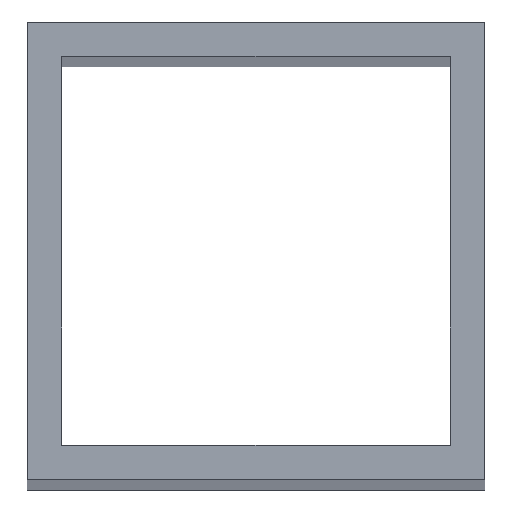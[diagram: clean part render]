
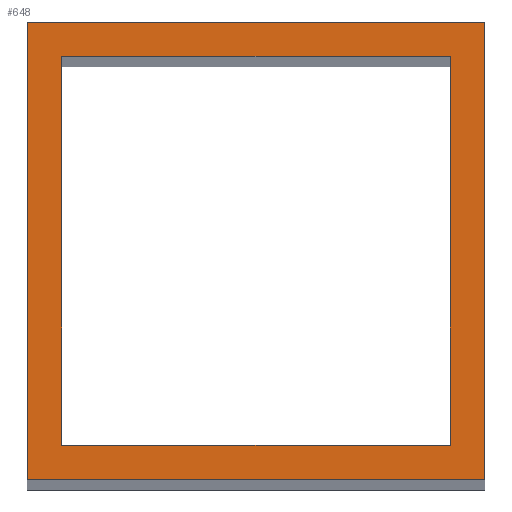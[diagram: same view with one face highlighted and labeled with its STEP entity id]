
A CAD part, top view. The second image highlights one B-rep face of the part: STEP entity #648.
In plain terms, the highlighted planar face has unit normal (0, 0, 1).
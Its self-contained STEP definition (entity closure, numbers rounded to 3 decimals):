
#24 = VERTEX_POINT('',#25);
#25 = CARTESIAN_POINT('',(-20.,-20.,520.));
#32 = PLANE('',#33);
#33 = AXIS2_PLACEMENT_3D('',#34,#35,#36);
#34 = CARTESIAN_POINT('',(-20.,-20.,0.));
#35 = DIRECTION('',(0.,1.,0.));
#36 = DIRECTION('',(1.,0.,0.));
#44 = PLANE('',#45);
#45 = AXIS2_PLACEMENT_3D('',#46,#47,#48);
#46 = CARTESIAN_POINT('',(-20.,20.,0.));
#47 = DIRECTION('',(1.,0.,-0.));
#48 = DIRECTION('',(0.,-1.,0.));
#56 = EDGE_CURVE('',#24,#57,#59,.T.);
#57 = VERTEX_POINT('',#58);
#58 = CARTESIAN_POINT('',(20.,-20.,520.));
#59 = SURFACE_CURVE('',#60,(#64,#71),.PCURVE_S1.);
#60 = LINE('',#61,#62);
#61 = CARTESIAN_POINT('',(-20.,-20.,520.));
#62 = VECTOR('',#63,1.);
#63 = DIRECTION('',(1.,0.,0.));
#64 = PCURVE('',#32,#65);
#65 = DEFINITIONAL_REPRESENTATION('',(#66),#70);
#66 = LINE('',#67,#68);
#67 = CARTESIAN_POINT('',(0.,-520.));
#68 = VECTOR('',#69,1.);
#69 = DIRECTION('',(1.,0.));
#70 = ( GEOMETRIC_REPRESENTATION_CONTEXT(2) 
PARAMETRIC_REPRESENTATION_CONTEXT() REPRESENTATION_CONTEXT('2D SPACE',''
  ) );
#71 = PCURVE('',#72,#77);
#72 = PLANE('',#73);
#73 = AXIS2_PLACEMENT_3D('',#74,#75,#76);
#74 = CARTESIAN_POINT('',(0.,0.,520.));
#75 = DIRECTION('',(0.,0.,1.));
#76 = DIRECTION('',(1.,0.,-0.));
#77 = DEFINITIONAL_REPRESENTATION('',(#78),#82);
#78 = LINE('',#79,#80);
#79 = CARTESIAN_POINT('',(-20.,-20.));
#80 = VECTOR('',#81,1.);
#81 = DIRECTION('',(1.,0.));
#82 = ( GEOMETRIC_REPRESENTATION_CONTEXT(2) 
PARAMETRIC_REPRESENTATION_CONTEXT() REPRESENTATION_CONTEXT('2D SPACE',''
  ) );
#100 = PLANE('',#101);
#101 = AXIS2_PLACEMENT_3D('',#102,#103,#104);
#102 = CARTESIAN_POINT('',(20.,-20.,0.));
#103 = DIRECTION('',(-1.,0.,0.));
#104 = DIRECTION('',(0.,1.,0.));
#142 = EDGE_CURVE('',#57,#143,#145,.T.);
#143 = VERTEX_POINT('',#144);
#144 = CARTESIAN_POINT('',(20.,20.,520.));
#145 = SURFACE_CURVE('',#146,(#150,#157),.PCURVE_S1.);
#146 = LINE('',#147,#148);
#147 = CARTESIAN_POINT('',(20.,-20.,520.));
#148 = VECTOR('',#149,1.);
#149 = DIRECTION('',(0.,1.,0.));
#150 = PCURVE('',#100,#151);
#151 = DEFINITIONAL_REPRESENTATION('',(#152),#156);
#152 = LINE('',#153,#154);
#153 = CARTESIAN_POINT('',(0.,-520.));
#154 = VECTOR('',#155,1.);
#155 = DIRECTION('',(1.,0.));
#156 = ( GEOMETRIC_REPRESENTATION_CONTEXT(2) 
PARAMETRIC_REPRESENTATION_CONTEXT() REPRESENTATION_CONTEXT('2D SPACE',''
  ) );
#157 = PCURVE('',#72,#158);
#158 = DEFINITIONAL_REPRESENTATION('',(#159),#163);
#159 = LINE('',#160,#161);
#160 = CARTESIAN_POINT('',(20.,-20.));
#161 = VECTOR('',#162,1.);
#162 = DIRECTION('',(0.,1.));
#163 = ( GEOMETRIC_REPRESENTATION_CONTEXT(2) 
PARAMETRIC_REPRESENTATION_CONTEXT() REPRESENTATION_CONTEXT('2D SPACE',''
  ) );
#181 = PLANE('',#182);
#182 = AXIS2_PLACEMENT_3D('',#183,#184,#185);
#183 = CARTESIAN_POINT('',(20.,20.,0.));
#184 = DIRECTION('',(0.,-1.,0.));
#185 = DIRECTION('',(-1.,0.,0.));
#218 = EDGE_CURVE('',#143,#219,#221,.T.);
#219 = VERTEX_POINT('',#220);
#220 = CARTESIAN_POINT('',(-20.,20.,520.));
#221 = SURFACE_CURVE('',#222,(#226,#233),.PCURVE_S1.);
#222 = LINE('',#223,#224);
#223 = CARTESIAN_POINT('',(20.,20.,520.));
#224 = VECTOR('',#225,1.);
#225 = DIRECTION('',(-1.,0.,0.));
#226 = PCURVE('',#181,#227);
#227 = DEFINITIONAL_REPRESENTATION('',(#228),#232);
#228 = LINE('',#229,#230);
#229 = CARTESIAN_POINT('',(0.,-520.));
#230 = VECTOR('',#231,1.);
#231 = DIRECTION('',(1.,0.));
#232 = ( GEOMETRIC_REPRESENTATION_CONTEXT(2) 
PARAMETRIC_REPRESENTATION_CONTEXT() REPRESENTATION_CONTEXT('2D SPACE',''
  ) );
#233 = PCURVE('',#72,#234);
#234 = DEFINITIONAL_REPRESENTATION('',(#235),#239);
#235 = LINE('',#236,#237);
#236 = CARTESIAN_POINT('',(20.,20.));
#237 = VECTOR('',#238,1.);
#238 = DIRECTION('',(-1.,0.));
#239 = ( GEOMETRIC_REPRESENTATION_CONTEXT(2) 
PARAMETRIC_REPRESENTATION_CONTEXT() REPRESENTATION_CONTEXT('2D SPACE',''
  ) );
#289 = EDGE_CURVE('',#219,#24,#290,.T.);
#290 = SURFACE_CURVE('',#291,(#295,#302),.PCURVE_S1.);
#291 = LINE('',#292,#293);
#292 = CARTESIAN_POINT('',(-20.,20.,520.));
#293 = VECTOR('',#294,1.);
#294 = DIRECTION('',(0.,-1.,0.));
#295 = PCURVE('',#44,#296);
#296 = DEFINITIONAL_REPRESENTATION('',(#297),#301);
#297 = LINE('',#298,#299);
#298 = CARTESIAN_POINT('',(0.,-520.));
#299 = VECTOR('',#300,1.);
#300 = DIRECTION('',(1.,0.));
#301 = ( GEOMETRIC_REPRESENTATION_CONTEXT(2) 
PARAMETRIC_REPRESENTATION_CONTEXT() REPRESENTATION_CONTEXT('2D SPACE',''
  ) );
#302 = PCURVE('',#72,#303);
#303 = DEFINITIONAL_REPRESENTATION('',(#304),#308);
#304 = LINE('',#305,#306);
#305 = CARTESIAN_POINT('',(-20.,20.));
#306 = VECTOR('',#307,1.);
#307 = DIRECTION('',(0.,-1.));
#308 = ( GEOMETRIC_REPRESENTATION_CONTEXT(2) 
PARAMETRIC_REPRESENTATION_CONTEXT() REPRESENTATION_CONTEXT('2D SPACE',''
  ) );
#338 = VERTEX_POINT('',#339);
#339 = CARTESIAN_POINT('',(-17.,-17.,520.));
#346 = PLANE('',#347);
#347 = AXIS2_PLACEMENT_3D('',#348,#349,#350);
#348 = CARTESIAN_POINT('',(-17.,-17.,0.));
#349 = DIRECTION('',(0.,1.,0.));
#350 = DIRECTION('',(1.,0.,0.));
#358 = PLANE('',#359);
#359 = AXIS2_PLACEMENT_3D('',#360,#361,#362);
#360 = CARTESIAN_POINT('',(-17.,17.,0.));
#361 = DIRECTION('',(1.,0.,-0.));
#362 = DIRECTION('',(0.,-1.,0.));
#370 = EDGE_CURVE('',#338,#371,#373,.T.);
#371 = VERTEX_POINT('',#372);
#372 = CARTESIAN_POINT('',(17.,-17.,520.));
#373 = SURFACE_CURVE('',#374,(#378,#385),.PCURVE_S1.);
#374 = LINE('',#375,#376);
#375 = CARTESIAN_POINT('',(-17.,-17.,520.));
#376 = VECTOR('',#377,1.);
#377 = DIRECTION('',(1.,0.,0.));
#378 = PCURVE('',#346,#379);
#379 = DEFINITIONAL_REPRESENTATION('',(#380),#384);
#380 = LINE('',#381,#382);
#381 = CARTESIAN_POINT('',(0.,-520.));
#382 = VECTOR('',#383,1.);
#383 = DIRECTION('',(1.,0.));
#384 = ( GEOMETRIC_REPRESENTATION_CONTEXT(2) 
PARAMETRIC_REPRESENTATION_CONTEXT() REPRESENTATION_CONTEXT('2D SPACE',''
  ) );
#385 = PCURVE('',#72,#386);
#386 = DEFINITIONAL_REPRESENTATION('',(#387),#391);
#387 = LINE('',#388,#389);
#388 = CARTESIAN_POINT('',(-17.,-17.));
#389 = VECTOR('',#390,1.);
#390 = DIRECTION('',(1.,0.));
#391 = ( GEOMETRIC_REPRESENTATION_CONTEXT(2) 
PARAMETRIC_REPRESENTATION_CONTEXT() REPRESENTATION_CONTEXT('2D SPACE',''
  ) );
#409 = PLANE('',#410);
#410 = AXIS2_PLACEMENT_3D('',#411,#412,#413);
#411 = CARTESIAN_POINT('',(17.,-17.,0.));
#412 = DIRECTION('',(-1.,0.,0.));
#413 = DIRECTION('',(0.,1.,0.));
#446 = EDGE_CURVE('',#371,#447,#449,.T.);
#447 = VERTEX_POINT('',#448);
#448 = CARTESIAN_POINT('',(17.,17.,520.));
#449 = SURFACE_CURVE('',#450,(#454,#461),.PCURVE_S1.);
#450 = LINE('',#451,#452);
#451 = CARTESIAN_POINT('',(17.,-17.,520.));
#452 = VECTOR('',#453,1.);
#453 = DIRECTION('',(0.,1.,0.));
#454 = PCURVE('',#409,#455);
#455 = DEFINITIONAL_REPRESENTATION('',(#456),#460);
#456 = LINE('',#457,#458);
#457 = CARTESIAN_POINT('',(0.,-520.));
#458 = VECTOR('',#459,1.);
#459 = DIRECTION('',(1.,0.));
#460 = ( GEOMETRIC_REPRESENTATION_CONTEXT(2) 
PARAMETRIC_REPRESENTATION_CONTEXT() REPRESENTATION_CONTEXT('2D SPACE',''
  ) );
#461 = PCURVE('',#72,#462);
#462 = DEFINITIONAL_REPRESENTATION('',(#463),#467);
#463 = LINE('',#464,#465);
#464 = CARTESIAN_POINT('',(17.,-17.));
#465 = VECTOR('',#466,1.);
#466 = DIRECTION('',(0.,1.));
#467 = ( GEOMETRIC_REPRESENTATION_CONTEXT(2) 
PARAMETRIC_REPRESENTATION_CONTEXT() REPRESENTATION_CONTEXT('2D SPACE',''
  ) );
#485 = PLANE('',#486);
#486 = AXIS2_PLACEMENT_3D('',#487,#488,#489);
#487 = CARTESIAN_POINT('',(17.,17.,0.));
#488 = DIRECTION('',(0.,-1.,0.));
#489 = DIRECTION('',(-1.,0.,0.));
#522 = EDGE_CURVE('',#447,#523,#525,.T.);
#523 = VERTEX_POINT('',#524);
#524 = CARTESIAN_POINT('',(-17.,17.,520.));
#525 = SURFACE_CURVE('',#526,(#530,#537),.PCURVE_S1.);
#526 = LINE('',#527,#528);
#527 = CARTESIAN_POINT('',(17.,17.,520.));
#528 = VECTOR('',#529,1.);
#529 = DIRECTION('',(-1.,0.,0.));
#530 = PCURVE('',#485,#531);
#531 = DEFINITIONAL_REPRESENTATION('',(#532),#536);
#532 = LINE('',#533,#534);
#533 = CARTESIAN_POINT('',(0.,-520.));
#534 = VECTOR('',#535,1.);
#535 = DIRECTION('',(1.,0.));
#536 = ( GEOMETRIC_REPRESENTATION_CONTEXT(2) 
PARAMETRIC_REPRESENTATION_CONTEXT() REPRESENTATION_CONTEXT('2D SPACE',''
  ) );
#537 = PCURVE('',#72,#538);
#538 = DEFINITIONAL_REPRESENTATION('',(#539),#543);
#539 = LINE('',#540,#541);
#540 = CARTESIAN_POINT('',(17.,17.));
#541 = VECTOR('',#542,1.);
#542 = DIRECTION('',(-1.,0.));
#543 = ( GEOMETRIC_REPRESENTATION_CONTEXT(2) 
PARAMETRIC_REPRESENTATION_CONTEXT() REPRESENTATION_CONTEXT('2D SPACE',''
  ) );
#593 = EDGE_CURVE('',#523,#338,#594,.T.);
#594 = SURFACE_CURVE('',#595,(#599,#606),.PCURVE_S1.);
#595 = LINE('',#596,#597);
#596 = CARTESIAN_POINT('',(-17.,17.,520.));
#597 = VECTOR('',#598,1.);
#598 = DIRECTION('',(0.,-1.,0.));
#599 = PCURVE('',#358,#600);
#600 = DEFINITIONAL_REPRESENTATION('',(#601),#605);
#601 = LINE('',#602,#603);
#602 = CARTESIAN_POINT('',(0.,-520.));
#603 = VECTOR('',#604,1.);
#604 = DIRECTION('',(1.,0.));
#605 = ( GEOMETRIC_REPRESENTATION_CONTEXT(2) 
PARAMETRIC_REPRESENTATION_CONTEXT() REPRESENTATION_CONTEXT('2D SPACE',''
  ) );
#606 = PCURVE('',#72,#607);
#607 = DEFINITIONAL_REPRESENTATION('',(#608),#612);
#608 = LINE('',#609,#610);
#609 = CARTESIAN_POINT('',(-17.,17.));
#610 = VECTOR('',#611,1.);
#611 = DIRECTION('',(0.,-1.));
#612 = ( GEOMETRIC_REPRESENTATION_CONTEXT(2) 
PARAMETRIC_REPRESENTATION_CONTEXT() REPRESENTATION_CONTEXT('2D SPACE',''
  ) );
#648 = ADVANCED_FACE('',(#649,#655),#72,.T.);
#649 = FACE_BOUND('',#650,.T.);
#650 = EDGE_LOOP('',(#651,#652,#653,#654));
#651 = ORIENTED_EDGE('',*,*,#56,.T.);
#652 = ORIENTED_EDGE('',*,*,#142,.T.);
#653 = ORIENTED_EDGE('',*,*,#218,.T.);
#654 = ORIENTED_EDGE('',*,*,#289,.T.);
#655 = FACE_BOUND('',#656,.F.);
#656 = EDGE_LOOP('',(#657,#658,#659,#660));
#657 = ORIENTED_EDGE('',*,*,#370,.T.);
#658 = ORIENTED_EDGE('',*,*,#446,.T.);
#659 = ORIENTED_EDGE('',*,*,#522,.T.);
#660 = ORIENTED_EDGE('',*,*,#593,.T.);
